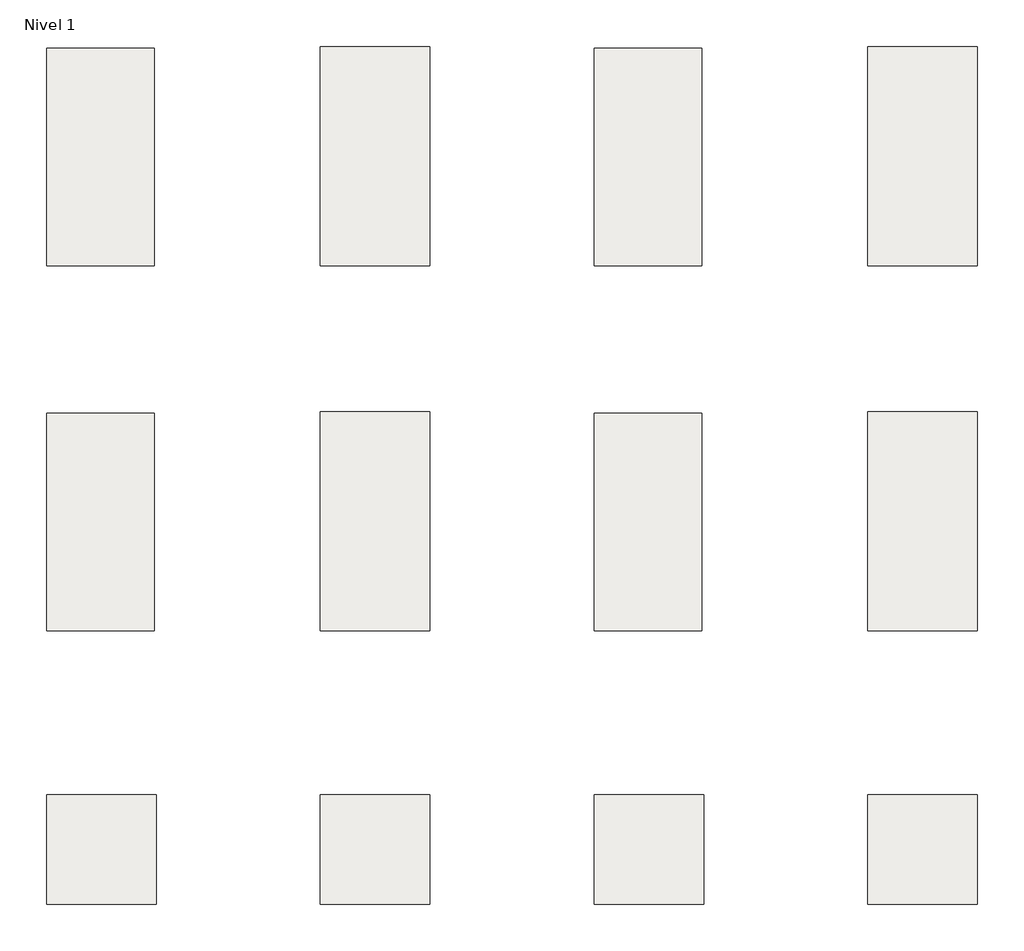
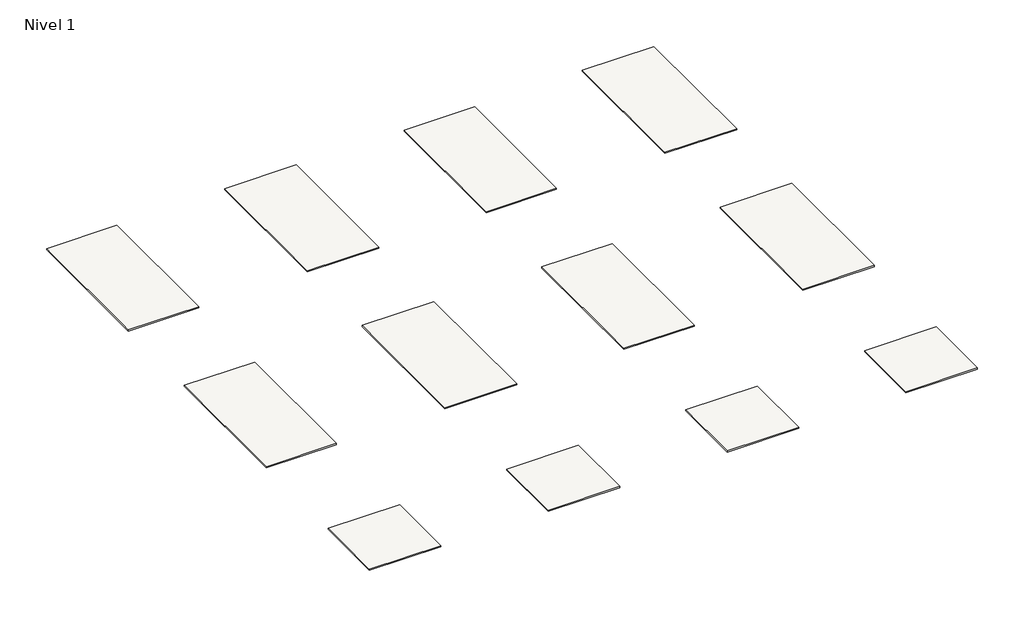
# One storey: 12 slabs.
"""IFC4 building model written with IfcOpenShell, lengths in millimetres."""

from ifc_helpers import new_model, si_unit, frame, origin, place, context, project, spatial, polyline, outline, extrude, element, save

model = new_model("IFC4")

# Units and contexts
model_context = context("Model", 3, world=origin())
ifc_project = project(units=[si_unit("LENGTHUNIT", "METRE", prefix="MILLI")], contexts=[model_context])

# Site, building, storey
site = spatial("IfcSite", under=ifc_project)
building = spatial("IfcBuilding", under=site)
storey = spatial("IfcBuildingStorey", under=building, Name="Nivel 1", Elevation=0.0)

# Slabs
placement = place(None, origin())
element("IfcSlab", 1, ObjectType="Yukatan Blanco Pulido 59X119 Rec", at=placement, inside=storey, context=model_context, shape_type="SweptSolid", body=[
    extrude(outline(polyline([(0.0, 1190.0), (590.0, 1190.0), (590.0, 0.0), (0.0, 0.0), (0.0, 1190.0)])), frame((0.0, 0.0, -10.0), z_axis=(0.0, 0.0, 1.0), x_axis=(1.0, 0.0, 0.0)), (0.0, 0.0, 1.0), 10.0),
])
element("IfcSlab", 2, ObjectType="Yukatan Blanco 60X120 Rec", at=placement, inside=storey, context=model_context, shape_type="SweptSolid", body=[
    extrude(outline(polyline([(1500.0, 1200.0), (2100.0, 1200.0), (2100.0, 0.0), (1500.0, 0.0), (1500.0, 1200.0)])), frame((0.0, 0.0, -10.0), z_axis=(0.0, 0.0, 1.0), x_axis=(1.0, 0.0, 0.0)), (0.0, 0.0, 1.0), 10.0),
])
element("IfcSlab", 3, ObjectType="Yukatan Verde Pulido 59X119 Rec", at=placement, inside=storey, context=model_context, shape_type="SweptSolid", body=[
    extrude(outline(polyline([(3000.0, 1190.0), (3590.0, 1190.0), (3590.0, 0.0), (3000.0, 0.0), (3000.0, 1190.0)])), frame((0.0, 0.0, -10.0), z_axis=(0.0, 0.0, 1.0), x_axis=(1.0, 0.0, 0.0)), (0.0, 0.0, 1.0), 10.0),
])
element("IfcSlab", 4, ObjectType="Yukatan Verde 60X120 Rec", at=placement, inside=storey, context=model_context, shape_type="SweptSolid", body=[
    extrude(outline(polyline([(4500.0, 1200.0), (5100.0, 1200.0), (5100.0, 0.0), (4500.0, 0.0), (4500.0, 1200.0)])), frame((0.0, 0.0, -10.0), z_axis=(0.0, 0.0, 1.0), x_axis=(1.0, 0.0, 0.0)), (0.0, 0.0, 1.0), 10.0),
])
element("IfcSlab", 5, ObjectType="Yukatan Beige Pulido 59X119 Rec", at=placement, inside=storey, context=model_context, shape_type="SweptSolid", body=[
    extrude(outline(polyline([(0.0, -810.0), (590.0, -810.0), (590.0, -2000.0), (0.0, -2000.0), (0.0, -810.0)])), frame((0.0, 0.0, -10.0), z_axis=(0.0, 0.0, 1.0), x_axis=(1.0, 0.0, 0.0)), (0.0, 0.0, 1.0), 10.0),
])
element("IfcSlab", 6, ObjectType="Yukatan Beige 60X120 Rec", at=placement, inside=storey, context=model_context, shape_type="SweptSolid", body=[
    extrude(outline(polyline([(1500.0, -800.0), (2100.0, -800.0), (2100.0, -2000.0), (1500.0, -2000.0), (1500.0, -800.0)])), frame((0.0, 0.0, -10.0), z_axis=(0.0, 0.0, 1.0), x_axis=(1.0, 0.0, 0.0)), (0.0, 0.0, 1.0), 10.0),
])
element("IfcSlab", 7, ObjectType="Yukatan Multicolor Pulido 59X119 Rec", at=placement, inside=storey, context=model_context, shape_type="SweptSolid", body=[
    extrude(outline(polyline([(3000.0, -810.0), (3590.0, -810.0), (3590.0, -2000.0), (3000.0, -2000.0), (3000.0, -810.0)])), frame((0.0, 0.0, -10.0), z_axis=(0.0, 0.0, 1.0), x_axis=(1.0, 0.0, 0.0)), (0.0, 0.0, 1.0), 10.0),
])
element("IfcSlab", 8, ObjectType="Yukatan Multicolor 60X120 Rec", at=placement, inside=storey, context=model_context, shape_type="SweptSolid", body=[
    extrude(outline(polyline([(4500.0, -800.0), (5100.0, -800.0), (5100.0, -2000.0), (4500.0, -2000.0), (4500.0, -800.0)])), frame((0.0, 0.0, -10.0), z_axis=(0.0, 0.0, 1.0), x_axis=(1.0, 0.0, 0.0)), (0.0, 0.0, 1.0), 10.0),
])
element("IfcSlab", 9, ObjectType="Yukatan Blanco 60X60 Rec", at=placement, inside=storey, context=model_context, shape_type="SweptSolid", body=[
    extrude(outline(polyline([(0.0, -2900.0), (600.0, -2900.0), (600.0, -3500.0), (0.0, -3500.0), (0.0, -2900.0)])), frame((0.0, 0.0, -10.0), z_axis=(0.0, 0.0, 1.0), x_axis=(1.0, 0.0, 0.0)), (0.0, 0.0, 1.0), 10.0),
])
element("IfcSlab", 10, ObjectType="Yukatan Verde 60X60 Rec", at=placement, inside=storey, context=model_context, shape_type="SweptSolid", body=[
    extrude(outline(polyline([(1500.0, -2900.0), (2100.0, -2900.0), (2100.0, -3500.0), (1500.0, -3500.0), (1500.0, -2900.0)])), frame((0.0, 0.0, -10.0), z_axis=(0.0, 0.0, 1.0), x_axis=(1.0, 0.0, 0.0)), (0.0, 0.0, 1.0), 10.0),
])
element("IfcSlab", 11, ObjectType="Yukatan Beige 60X60 Rec", at=placement, inside=storey, context=model_context, shape_type="SweptSolid", body=[
    extrude(outline(polyline([(3000.0, -2900.0), (3600.0, -2900.0), (3600.0, -3500.0), (3000.0, -3500.0), (3000.0, -2900.0)])), frame((0.0, 0.0, -10.0), z_axis=(0.0, 0.0, 1.0), x_axis=(1.0, 0.0, 0.0)), (0.0, 0.0, 1.0), 10.0),
])
element("IfcSlab", 12, ObjectType="Yukatan Multicolor 60X60 Rec", at=placement, inside=storey, context=model_context, shape_type="SweptSolid", body=[
    extrude(outline(polyline([(4500.0, -2900.0), (5100.0, -2900.0), (5100.0, -3500.0), (4500.0, -3500.0), (4500.0, -2900.0)])), frame((0.0, 0.0, -10.0), z_axis=(0.0, 0.0, 1.0), x_axis=(1.0, 0.0, 0.0)), (0.0, 0.0, 1.0), 10.0),
])

save(model, "model.ifc")
